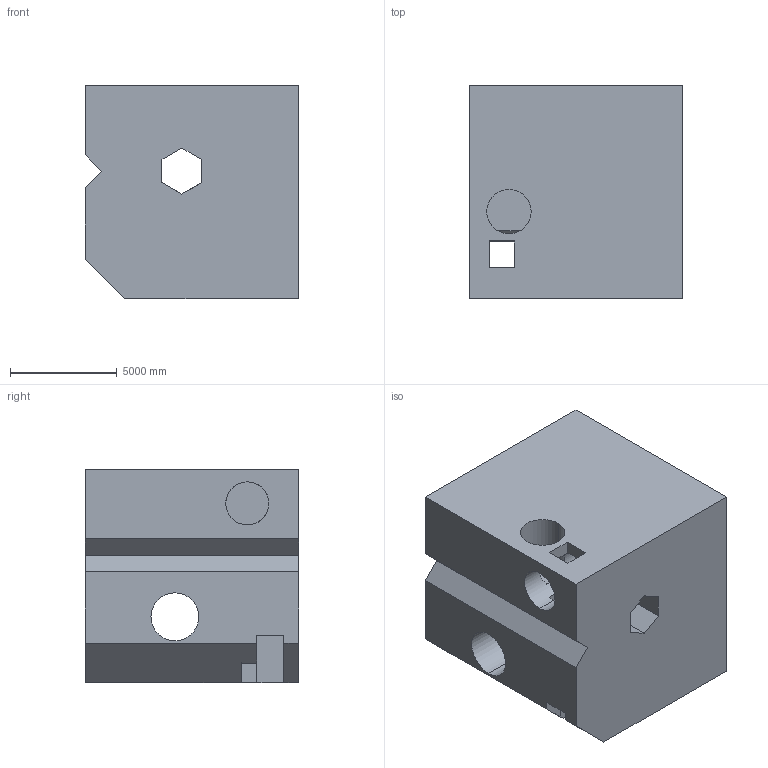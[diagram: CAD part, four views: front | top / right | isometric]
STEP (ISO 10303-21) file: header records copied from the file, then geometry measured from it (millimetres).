
FILE_DESCRIPTION (( 'STEP AP203' ), '1' );
FILE_NAME ('835.STEP', '2022-07-29T13:34:42', ( 'user' ), ( '' ), 'SwSTEP 2.0', 'SolidWorks 2021', '' );
FILE_SCHEMA (( 'CONFIG_CONTROL_DESIGN' ));
Length unit declared in the file: centimetre
Products named in the file (1): 835
Bounding box: 10000 x 10000 x 10000 mm (x, y, z)
Volume: 827809765938.4 mm3; surface area: 861902972.4 mm2
Topology: 1 solids, 1 shells, 43 faces, 138 edges, 92 vertices
Faces by surface type: plane 35, cylinder 8
Entity records: 1840 total; most frequent: CARTESIAN_POINT 500, ORIENTED_EDGE 276, DIRECTION 252, EDGE_CURVE 138, LINE 102, VECTOR 102, VERTEX_POINT 92, AXIS2_PLACEMENT_3D 75
